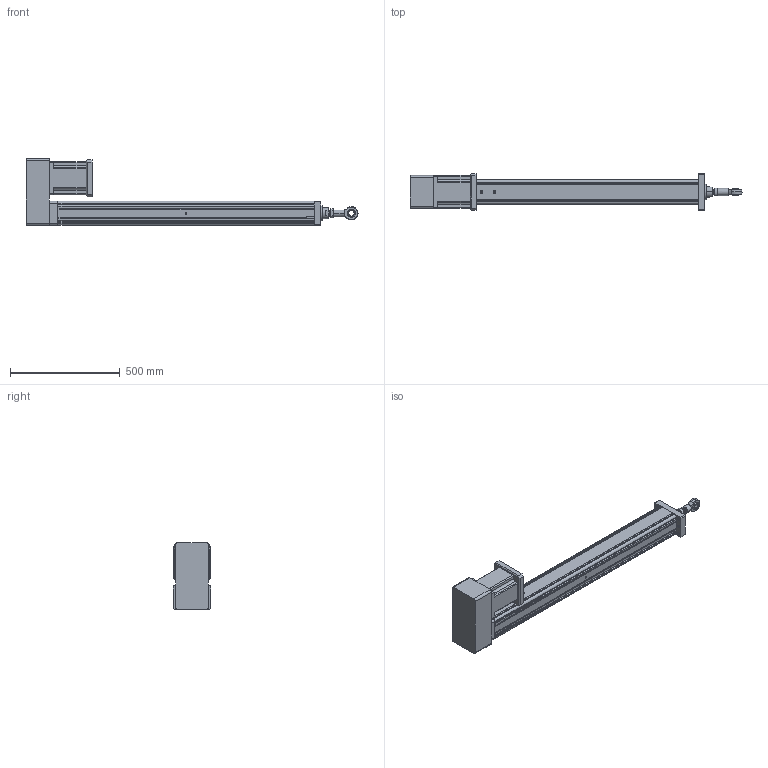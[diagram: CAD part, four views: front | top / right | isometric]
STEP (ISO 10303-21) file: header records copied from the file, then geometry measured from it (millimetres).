
FILE_DESCRIPTION (( 'STEP AP203' ), '1' );
FILE_NAME ('YRJ110-L1000-H3K3.STEP', '2020-01-04T06:28:01', ( 'User' ), ( 'China' ), 'SwSTEP 2.0', 'SolidWorks 2016', '' );
FILE_SCHEMA (( 'CONFIG_CONTROL_DESIGN' ));
Length unit declared in the file: millimetre
Products named in the file (11): _BNC01-SI25T_K-R-002; YRJ110-L1000-H3K3; BNC01-SI25T_K-R; K3-110; 萇儂碟-110; 142熬厒儂; K1-110; H3-110-1; _BNC01-SI25T_K-R-001; 095-100俴最倰第; H3-110-2
Assembly tree (10 placements, depth 4):
  YRJ110-L1000-H3K3
    095-100俴最倰第
    萇儂碟-110
    142熬厒儂
    K3-110
      K1-110
      BNC01-SI25T_K-R
        _BNC01-SI25T_K-R-001
        _BNC01-SI25T_K-R-002
    H3-110-1
    H3-110-2
Bounding box: 1515 x 170 x 305.5 mm (x, y, z)
Volume: 14838002.4 mm3; surface area: 1539113.7 mm2
Topology: 8 solids, 8 shells, 396 faces, 1101 edges, 709 vertices
Faces by surface type: plane 178, cylinder 170, cone 34, bspline 14
Entity records: 22819 total; most frequent: CARTESIAN_POINT 11710, ORIENTED_EDGE 2146, DIRECTION 1998, EDGE_CURVE 1073, VERTEX_POINT 709, AXIS2_PLACEMENT_3D 677, VECTOR 644, LINE 644
